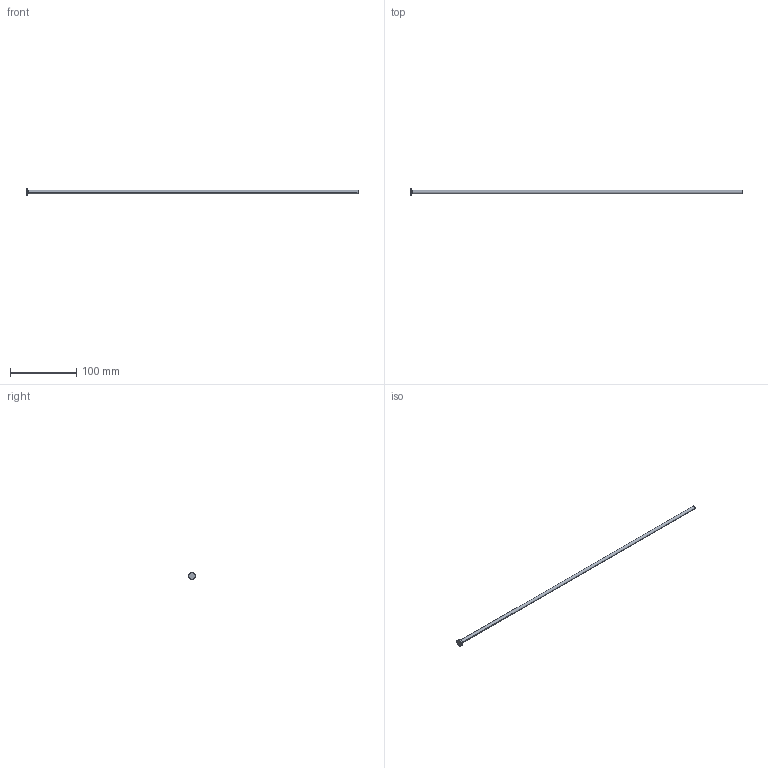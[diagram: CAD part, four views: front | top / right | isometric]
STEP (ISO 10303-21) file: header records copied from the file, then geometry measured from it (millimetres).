
FILE_DESCRIPTION (( 'STEP AP214' ), '1' );
FILE_NAME ('A-5,2x500.STEP', '2020-05-29T10:32:17', ( 'August' ), ( '' ), 'SwSTEP 2.0', 'SolidWorks 2018', '' );
FILE_SCHEMA (( 'AUTOMOTIVE_DESIGN' ));
Length unit declared in the file: millimetre
Products named in the file (1): A-5,2x500
Bounding box: 500 x 10 x 10 mm (x, y, z)
Volume: 10790.8 mm3; surface area: 8368.4 mm2
Topology: 1 solids, 1 shells, 9 faces, 16 edges, 10 vertices
Faces by surface type: cylinder 4, plane 3, torus 2
Entity records: 260 total; most frequent: DIRECTION 48, CARTESIAN_POINT 36, ORIENTED_EDGE 32, AXIS2_PLACEMENT_3D 22, EDGE_CURVE 16, CIRCLE 12, VERTEX_POINT 10, EDGE_LOOP 10
